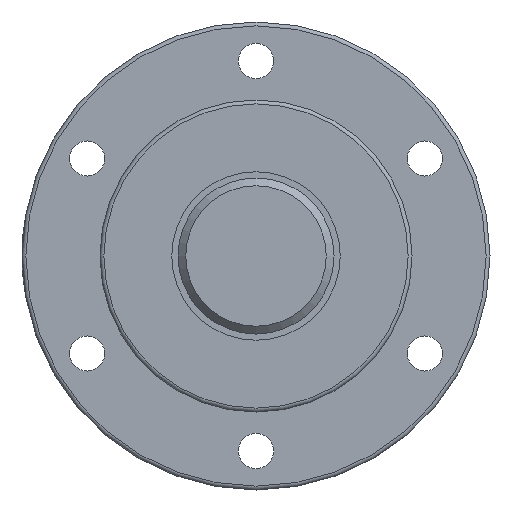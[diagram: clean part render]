
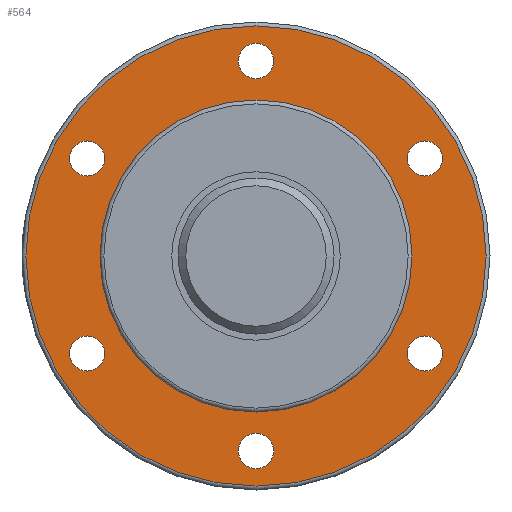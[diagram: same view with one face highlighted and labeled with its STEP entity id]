
A CAD part, left-side view. The second image highlights one B-rep face of the part: STEP entity #564.
In plain terms, the highlighted planar face has unit normal (-1, 0, 0).
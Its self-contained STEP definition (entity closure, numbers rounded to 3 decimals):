
#69=PLANE('',#654);
#125=ORIENTED_EDGE('',*,*,#224,.T.);
#126=ORIENTED_EDGE('',*,*,#225,.F.);
#127=ORIENTED_EDGE('',*,*,#226,.F.);
#128=ORIENTED_EDGE('',*,*,#227,.F.);
#129=ORIENTED_EDGE('',*,*,#228,.F.);
#130=ORIENTED_EDGE('',*,*,#229,.F.);
#131=ORIENTED_EDGE('',*,*,#230,.F.);
#132=ORIENTED_EDGE('',*,*,#231,.F.);
#224=EDGE_CURVE('',#279,#279,#325,.T.);
#225=EDGE_CURVE('',#280,#280,#326,.T.);
#226=EDGE_CURVE('',#281,#281,#327,.T.);
#227=EDGE_CURVE('',#282,#282,#328,.T.);
#228=EDGE_CURVE('',#283,#283,#329,.T.);
#229=EDGE_CURVE('',#284,#284,#330,.T.);
#230=EDGE_CURVE('',#285,#285,#331,.T.);
#231=EDGE_CURVE('',#286,#286,#332,.T.);
#279=VERTEX_POINT('',#982);
#280=VERTEX_POINT('',#984);
#281=VERTEX_POINT('',#986);
#282=VERTEX_POINT('',#988);
#283=VERTEX_POINT('',#990);
#284=VERTEX_POINT('',#992);
#285=VERTEX_POINT('',#994);
#286=VERTEX_POINT('',#996);
#325=CIRCLE('',#655,20.);
#326=CIRCLE('',#656,29.5);
#327=CIRCLE('',#657,2.25);
#328=CIRCLE('',#658,2.25);
#329=CIRCLE('',#659,2.25);
#330=CIRCLE('',#660,2.25);
#331=CIRCLE('',#661,2.25);
#332=CIRCLE('',#662,2.25);
#381=EDGE_LOOP('',(#125));
#382=EDGE_LOOP('',(#126));
#383=EDGE_LOOP('',(#127));
#384=EDGE_LOOP('',(#128));
#385=EDGE_LOOP('',(#129));
#386=EDGE_LOOP('',(#130));
#387=EDGE_LOOP('',(#131));
#388=EDGE_LOOP('',(#132));
#472=FACE_BOUND('',#381,.T.);
#473=FACE_BOUND('',#382,.T.);
#474=FACE_BOUND('',#383,.T.);
#475=FACE_BOUND('',#384,.T.);
#476=FACE_BOUND('',#385,.T.);
#477=FACE_BOUND('',#386,.T.);
#478=FACE_BOUND('',#387,.T.);
#479=FACE_BOUND('',#388,.T.);
#564=ADVANCED_FACE('',(#472,#473,#474,#475,#476,#477,#478,#479),#69,.T.);
#654=AXIS2_PLACEMENT_3D('',#980,#795,#796);
#655=AXIS2_PLACEMENT_3D('',#981,#797,#798);
#656=AXIS2_PLACEMENT_3D('',#983,#799,#800);
#657=AXIS2_PLACEMENT_3D('',#985,#801,#802);
#658=AXIS2_PLACEMENT_3D('',#987,#803,#804);
#659=AXIS2_PLACEMENT_3D('',#989,#805,#806);
#660=AXIS2_PLACEMENT_3D('',#991,#807,#808);
#661=AXIS2_PLACEMENT_3D('',#993,#809,#810);
#662=AXIS2_PLACEMENT_3D('',#995,#811,#812);
#795=DIRECTION('',(-1.,0.,0.));
#796=DIRECTION('',(0.,0.,1.));
#797=DIRECTION('',(1.,0.,0.));
#798=DIRECTION('',(0.,0.,-1.));
#799=DIRECTION('',(1.,0.,0.));
#800=DIRECTION('',(0.,0.,-1.));
#801=DIRECTION('',(-1.,0.,0.));
#802=DIRECTION('',(0.,0.,1.));
#803=DIRECTION('',(-1.,0.,0.));
#804=DIRECTION('',(0.,0.,1.));
#805=DIRECTION('',(-1.,0.,0.));
#806=DIRECTION('',(0.,0.,1.));
#807=DIRECTION('',(-1.,0.,0.));
#808=DIRECTION('',(0.,0.,1.));
#809=DIRECTION('',(-1.,0.,0.));
#810=DIRECTION('',(0.,0.,1.));
#811=DIRECTION('',(-1.,0.,0.));
#812=DIRECTION('',(0.,0.,1.));
#980=CARTESIAN_POINT('',(-10.,-58.921,0.));
#981=CARTESIAN_POINT('',(-10.,0.,0.));
#982=CARTESIAN_POINT('',(-10.,0.,-20.));
#983=CARTESIAN_POINT('',(-10.,0.,0.));
#984=CARTESIAN_POINT('',(-10.,0.,-29.5));
#985=CARTESIAN_POINT('',(-10.,0.,-25.));
#986=CARTESIAN_POINT('',(-10.,0.,-22.75));
#987=CARTESIAN_POINT('',(-10.,21.651,-12.5));
#988=CARTESIAN_POINT('',(-10.,21.651,-10.25));
#989=CARTESIAN_POINT('',(-10.,21.651,12.5));
#990=CARTESIAN_POINT('',(-10.,21.651,14.75));
#991=CARTESIAN_POINT('',(-10.,0.,25.));
#992=CARTESIAN_POINT('',(-10.,0.,27.25));
#993=CARTESIAN_POINT('',(-10.,-21.651,12.5));
#994=CARTESIAN_POINT('',(-10.,-21.651,14.75));
#995=CARTESIAN_POINT('',(-10.,-21.651,-12.5));
#996=CARTESIAN_POINT('',(-10.,-21.651,-10.25));
